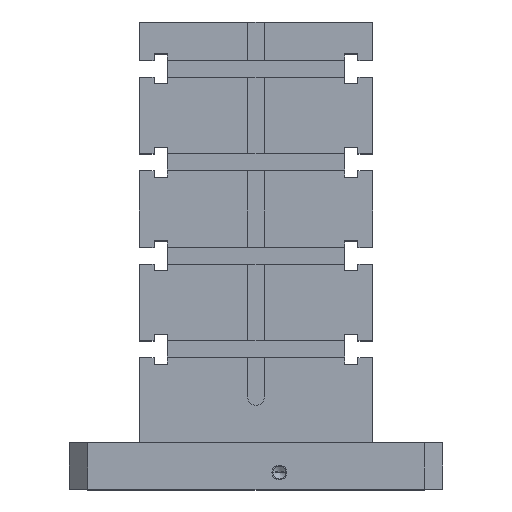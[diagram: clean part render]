
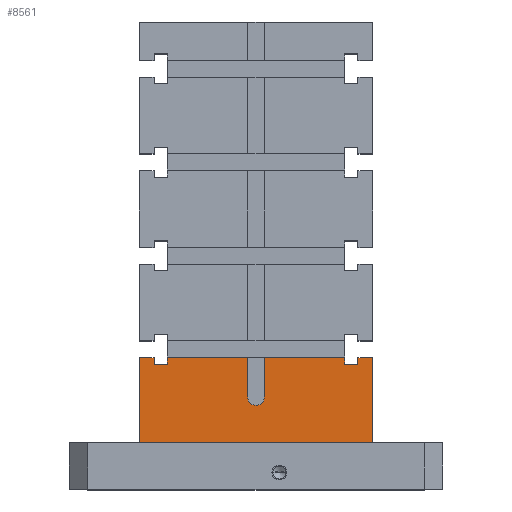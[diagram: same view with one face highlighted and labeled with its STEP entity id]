
A CAD part, top view. The second image highlights one B-rep face of the part: STEP entity #8561.
In plain terms, the highlighted planar face has unit normal (0, 0, 1).
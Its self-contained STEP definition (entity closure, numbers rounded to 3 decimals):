
#239=DIRECTION('',(1.,0.,0.));
#240=VECTOR('',#239,250.);
#241=CARTESIAN_POINT('',(-125.,25.,125.));
#242=LINE('',#241,#240);
#695=DIRECTION('',(0.,-1.,0.));
#696=VECTOR('',#695,42.);
#697=CARTESIAN_POINT('',(-9.,116.,125.));
#698=LINE('',#697,#696);
#699=CARTESIAN_POINT('',(0.,74.,125.));
#700=DIRECTION('',(0.,0.,1.));
#701=DIRECTION('',(-1.,0.,0.));
#702=AXIS2_PLACEMENT_3D('',#699,#700,#701);
#704=DIRECTION('',(0.,-1.,0.));
#705=VECTOR('',#704,42.);
#706=CARTESIAN_POINT('',(9.,116.,125.));
#707=LINE('',#706,#705);
#708=DIRECTION('',(1.,0.,0.));
#709=VECTOR('',#708,86.);
#710=CARTESIAN_POINT('',(9.,116.,125.));
#711=LINE('',#710,#709);
#712=DIRECTION('',(0.,1.,0.));
#713=VECTOR('',#712,7.);
#714=CARTESIAN_POINT('',(95.,109.,125.));
#715=LINE('',#714,#713);
#716=DIRECTION('',(-1.,0.,0.));
#717=VECTOR('',#716,14.);
#718=CARTESIAN_POINT('',(109.,109.,125.));
#719=LINE('',#718,#717);
#720=DIRECTION('',(0.,-1.,0.));
#721=VECTOR('',#720,7.);
#722=CARTESIAN_POINT('',(109.,116.,125.));
#723=LINE('',#722,#721);
#724=DIRECTION('',(-1.,0.,0.));
#725=VECTOR('',#724,16.);
#726=CARTESIAN_POINT('',(125.,116.,125.));
#727=LINE('',#726,#725);
#728=DIRECTION('',(0.,1.,0.));
#729=VECTOR('',#728,91.);
#730=CARTESIAN_POINT('',(-125.,25.,125.));
#731=LINE('',#730,#729);
#732=DIRECTION('',(1.,0.,0.));
#733=VECTOR('',#732,16.);
#734=CARTESIAN_POINT('',(-125.,116.,125.));
#735=LINE('',#734,#733);
#736=DIRECTION('',(0.,-1.,0.));
#737=VECTOR('',#736,7.);
#738=CARTESIAN_POINT('',(-109.,116.,125.));
#739=LINE('',#738,#737);
#740=DIRECTION('',(1.,0.,0.));
#741=VECTOR('',#740,14.);
#742=CARTESIAN_POINT('',(-109.,109.,125.));
#743=LINE('',#742,#741);
#744=DIRECTION('',(0.,1.,0.));
#745=VECTOR('',#744,7.);
#746=CARTESIAN_POINT('',(-95.,109.,125.));
#747=LINE('',#746,#745);
#748=DIRECTION('',(1.,0.,0.));
#749=VECTOR('',#748,86.);
#750=CARTESIAN_POINT('',(-95.,116.,125.));
#751=LINE('',#750,#749);
#2380=DIRECTION('',(0.,1.,0.));
#2381=VECTOR('',#2380,91.);
#2382=CARTESIAN_POINT('',(125.,25.,125.));
#2383=LINE('',#2382,#2381);
#5993=CARTESIAN_POINT('',(-125.,25.,125.));
#5994=CARTESIAN_POINT('',(125.,25.,125.));
#5995=VERTEX_POINT('',#5993);
#5996=VERTEX_POINT('',#5994);
#6195=CARTESIAN_POINT('',(-125.,116.,125.));
#6196=CARTESIAN_POINT('',(-109.,116.,125.));
#6197=VERTEX_POINT('',#6195);
#6198=VERTEX_POINT('',#6196);
#6199=CARTESIAN_POINT('',(-109.,109.,125.));
#6200=VERTEX_POINT('',#6199);
#6201=CARTESIAN_POINT('',(-95.,109.,125.));
#6202=VERTEX_POINT('',#6201);
#6291=CARTESIAN_POINT('',(125.,116.,125.));
#6292=CARTESIAN_POINT('',(109.,116.,125.));
#6293=VERTEX_POINT('',#6291);
#6294=VERTEX_POINT('',#6292);
#6295=CARTESIAN_POINT('',(109.,109.,125.));
#6296=VERTEX_POINT('',#6295);
#6297=CARTESIAN_POINT('',(95.,109.,125.));
#6298=VERTEX_POINT('',#6297);
#6395=CARTESIAN_POINT('',(-95.,116.,125.));
#6397=VERTEX_POINT('',#6395);
#6427=CARTESIAN_POINT('',(95.,116.,125.));
#6429=VERTEX_POINT('',#6427);
#7479=CARTESIAN_POINT('',(9.,116.,125.));
#7481=VERTEX_POINT('',#7479);
#7485=CARTESIAN_POINT('',(-9.,116.,125.));
#7486=VERTEX_POINT('',#7485);
#7539=CARTESIAN_POINT('',(-9.,74.,125.));
#7541=VERTEX_POINT('',#7539);
#7545=CARTESIAN_POINT('',(9.,74.,125.));
#7546=VERTEX_POINT('',#7545);
#8523=CARTESIAN_POINT('',(-125.,25.,125.));
#8524=DIRECTION('',(0.,0.,1.));
#8525=DIRECTION('',(1.,0.,0.));
#8526=AXIS2_PLACEMENT_3D('',#8523,#8524,#8525);
#8527=PLANE('',#8526);
#8529=ORIENTED_EDGE('',*,*,#8528,.T.);
#8531=ORIENTED_EDGE('',*,*,#8530,.T.);
#8533=ORIENTED_EDGE('',*,*,#8532,.F.);
#8535=ORIENTED_EDGE('',*,*,#8534,.T.);
#8537=ORIENTED_EDGE('',*,*,#8536,.F.);
#8539=ORIENTED_EDGE('',*,*,#8538,.F.);
#8541=ORIENTED_EDGE('',*,*,#8540,.F.);
#8543=ORIENTED_EDGE('',*,*,#8542,.F.);
#8545=ORIENTED_EDGE('',*,*,#8544,.F.);
#8546=ORIENTED_EDGE('',*,*,#8224,.F.);
#8548=ORIENTED_EDGE('',*,*,#8547,.T.);
#8550=ORIENTED_EDGE('',*,*,#8549,.T.);
#8552=ORIENTED_EDGE('',*,*,#8551,.T.);
#8554=ORIENTED_EDGE('',*,*,#8553,.T.);
#8556=ORIENTED_EDGE('',*,*,#8555,.T.);
#8558=ORIENTED_EDGE('',*,*,#8557,.T.);
#8559=EDGE_LOOP('',(#8529,#8531,#8533,#8535,#8537,#8539,#8541,#8543,#8545,#8546,
#8548,#8550,#8552,#8554,#8556,#8558));
#8560=FACE_OUTER_BOUND('',#8559,.F.);
#8561=ADVANCED_FACE('',(#8560),#8527,.T.);
#703=CIRCLE('',#702,9.);
#8224=EDGE_CURVE('',#5995,#5996,#242,.T.);
#8528=EDGE_CURVE('',#7486,#7541,#698,.T.);
#8530=EDGE_CURVE('',#7541,#7546,#703,.T.);
#8532=EDGE_CURVE('',#7481,#7546,#707,.T.);
#8534=EDGE_CURVE('',#7481,#6429,#711,.T.);
#8536=EDGE_CURVE('',#6298,#6429,#715,.T.);
#8538=EDGE_CURVE('',#6296,#6298,#719,.T.);
#8540=EDGE_CURVE('',#6294,#6296,#723,.T.);
#8542=EDGE_CURVE('',#6293,#6294,#727,.T.);
#8544=EDGE_CURVE('',#5996,#6293,#2383,.T.);
#8547=EDGE_CURVE('',#5995,#6197,#731,.T.);
#8549=EDGE_CURVE('',#6197,#6198,#735,.T.);
#8551=EDGE_CURVE('',#6198,#6200,#739,.T.);
#8553=EDGE_CURVE('',#6200,#6202,#743,.T.);
#8555=EDGE_CURVE('',#6202,#6397,#747,.T.);
#8557=EDGE_CURVE('',#6397,#7486,#751,.T.);
